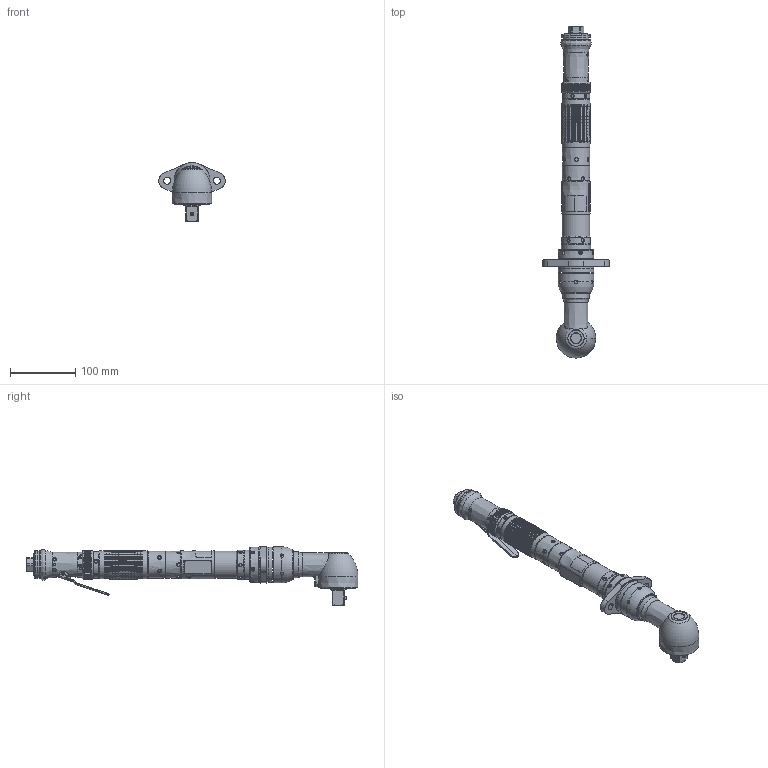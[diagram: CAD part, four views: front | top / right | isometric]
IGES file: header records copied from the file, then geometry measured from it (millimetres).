
Global section: file name: D:\share\siji\qa8\16595068\16595068.igs; native system: Unigraphics Version X V2.0; preprocessor: Unigraphics NX IGES V2.0; date: 20070518.123758; units: inch
Bounding box: 101.6 x 508.31 x 90.44 mm (x, y, z)
Surface area: 107422.3 mm2 (no closed solid volume)
Topology: 0 solids, 0 shells, 608 faces, 13927 edges, 13741 vertices
Faces by surface type: revolution 361, extrusion 215, bspline 30, offset 2
